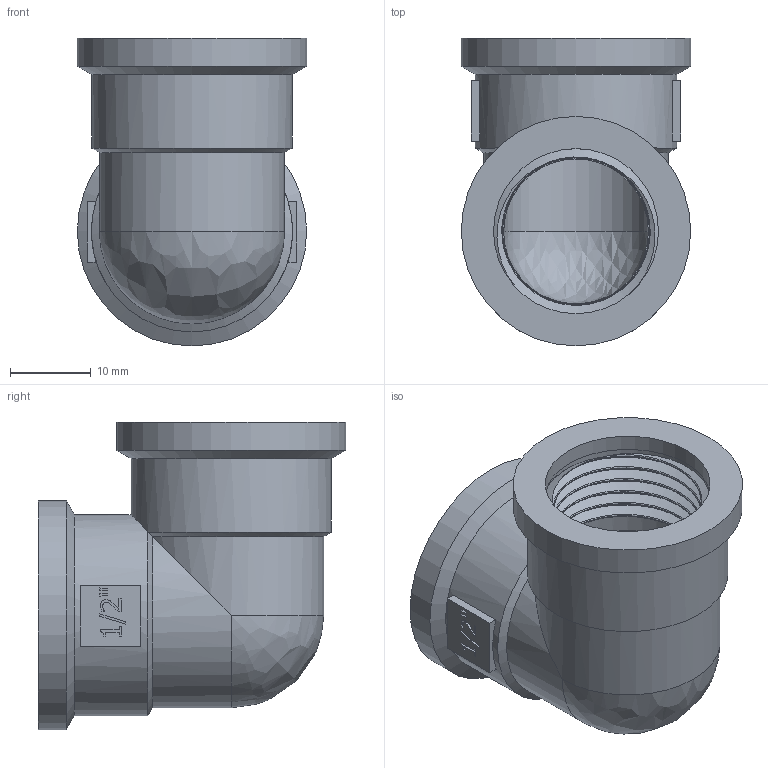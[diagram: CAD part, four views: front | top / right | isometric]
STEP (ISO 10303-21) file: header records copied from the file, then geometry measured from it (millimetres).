
FILE_DESCRIPTION(/* description */ (''),/* implementation_level */ '2;1');
FILE_NAME(/* name */ 'C:\Users\Doom\Desktop\Фадотех\Резьба\U01C 18.03.2020\U01C 18.03.2020.stp',/* time_stamp */ '2022-01-20T14:38:25+02:00',/* author */ ('Doom'),/* organization */ (''),/* preprocessor_version */ 'ST-DEVELOPER v18',/* originating_system */ 'Autodesk Inventor 2020',/* authorisation */ '');
FILE_SCHEMA (('AUTOMOTIVE_DESIGN { 1 0 10303 214 3 1 1 }'));
Length unit declared in the file: millimetre
Products named in the file (1): U01C 18.03.2020
Bounding box: 28.5 x 38.25 x 38.25 mm (x, y, z)
Volume: 9625.6 mm3; surface area: 11566.8 mm2
Topology: 3 solids, 3 shells, 133 faces, 364 edges, 240 vertices
Faces by surface type: plane 69, bspline 30, cylinder 30, cone 4
Full cylindrical faces by diameter (mm): 18 x2, 18.26 x12, 20.5 x1, 20.95 x4, 21.5 x1, 24.9 x1, 25 x1, 28.5 x2
Entity records: 11149 total; most frequent: CARTESIAN_POINT 8009, ORIENTED_EDGE 704, DIRECTION 521, EDGE_CURVE 352, VERTEX_POINT 236, LINE 191, VECTOR 191, AXIS2_PLACEMENT_3D 165
